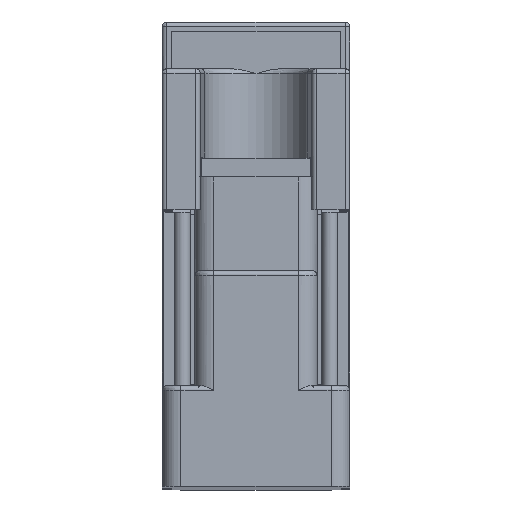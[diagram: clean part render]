
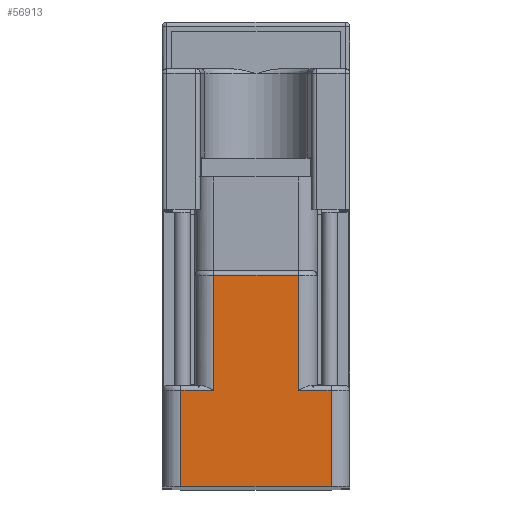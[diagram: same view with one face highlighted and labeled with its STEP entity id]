
A CAD part, top view. The second image highlights one B-rep face of the part: STEP entity #56913.
In plain terms, the highlighted planar face has unit normal (0, 0, 1).
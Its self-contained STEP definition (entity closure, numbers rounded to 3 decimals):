
#1094 = EDGE_CURVE ( 'NONE', #5496, #85985, #74769, .T. ) ;
#1185 = VERTEX_POINT ( 'NONE', #51080 ) ;
#3631 = VECTOR ( 'NONE', #69462, 1000. ) ;
#4089 = ORIENTED_EDGE ( 'NONE', *, *, #55636, .T. ) ;
#4388 = DIRECTION ( 'NONE',  ( 0., -1., 0. ) ) ;
#5163 = FACE_OUTER_BOUND ( 'NONE', #62914, .T. ) ;
#5496 = VERTEX_POINT ( 'NONE', #81099 ) ;
#5973 = EDGE_CURVE ( 'NONE', #47766, #56077, #28273, .T. ) ;
#6872 = CARTESIAN_POINT ( 'NONE',  ( 5.5, 80.626, 0. ) ) ;
#7039 = LINE ( 'NONE', #59703, #61359 ) ;
#12663 = CARTESIAN_POINT ( 'NONE',  ( 18., 0., 0. ) ) ;
#13845 = VERTEX_POINT ( 'NONE', #23467 ) ;
#17349 = CARTESIAN_POINT ( 'NONE',  ( 0., 10.25, 0. ) ) ;
#18995 = CARTESIAN_POINT ( 'NONE',  ( 5.5, 22.5, 0. ) ) ;
#19406 = VECTOR ( 'NONE', #4388, 1000. ) ;
#22482 = VECTOR ( 'NONE', #87958, 1000. ) ;
#23389 = VERTEX_POINT ( 'NONE', #87203 ) ;
#23467 = CARTESIAN_POINT ( 'NONE',  ( 18., 10.25, 0. ) ) ;
#23655 = VERTEX_POINT ( 'NONE', #81216 ) ;
#26893 = PLANE ( 'NONE',  #78021 ) ;
#28273 = LINE ( 'NONE', #83127, #19406 ) ;
#29772 = EDGE_CURVE ( 'NONE', #1185, #23389, #46340, .T. ) ;
#31207 = ORIENTED_EDGE ( 'NONE', *, *, #29772, .T. ) ;
#31580 = DIRECTION ( 'NONE',  ( -1., 0., 0. ) ) ;
#32814 = CARTESIAN_POINT ( 'NONE',  ( 0., 0., 0. ) ) ;
#33031 = VECTOR ( 'NONE', #63205, 1000. ) ;
#35828 = EDGE_CURVE ( 'NONE', #23389, #85985, #7039, .T. ) ;
#36969 = VECTOR ( 'NONE', #70719, 1000. ) ;
#39126 = ORIENTED_EDGE ( 'NONE', *, *, #69533, .T. ) ;
#45771 = LINE ( 'NONE', #12663, #3631 ) ;
#46340 = LINE ( 'NONE', #57639, #55242 ) ;
#47178 = CARTESIAN_POINT ( 'NONE',  ( 2., 10.25, 0. ) ) ;
#47766 = VERTEX_POINT ( 'NONE', #47178 ) ;
#48134 = ORIENTED_EDGE ( 'NONE', *, *, #35828, .T. ) ;
#49105 = DIRECTION ( 'NONE',  ( -1., 0., 0. ) ) ;
#51080 = CARTESIAN_POINT ( 'NONE',  ( 14.5, 10.25, 0. ) ) ;
#51900 = ORIENTED_EDGE ( 'NONE', *, *, #1094, .F. ) ;
#54824 = DIRECTION ( 'NONE',  ( 1., 0., 0. ) ) ;
#55242 = VECTOR ( 'NONE', #74135, 1000. ) ;
#55636 = EDGE_CURVE ( 'NONE', #13845, #1185, #75764, .T. ) ;
#56077 = VERTEX_POINT ( 'NONE', #57142 ) ;
#56913 = ADVANCED_FACE ( 'NONE', ( #5163 ), #26893, .T. ) ;
#57142 = CARTESIAN_POINT ( 'NONE',  ( 2., 0., 0. ) ) ;
#57639 = CARTESIAN_POINT ( 'NONE',  ( 14.5, 0., 0. ) ) ;
#59703 = CARTESIAN_POINT ( 'NONE',  ( 0., 22.5, 0. ) ) ;
#61359 = VECTOR ( 'NONE', #49105, 1000. ) ;
#62914 = EDGE_LOOP ( 'NONE', ( #89233, #4089, #31207, #48134, #51900, #39126, #67605, #68659 ) ) ;
#63205 = DIRECTION ( 'NONE',  ( 1., 0., 0. ) ) ;
#64485 = EDGE_CURVE ( 'NONE', #23655, #13845, #45771, .T. ) ;
#67605 = ORIENTED_EDGE ( 'NONE', *, *, #5973, .T. ) ;
#68659 = ORIENTED_EDGE ( 'NONE', *, *, #75500, .T. ) ;
#69129 = DIRECTION ( 'NONE',  ( 0., 0., 1. ) ) ;
#69462 = DIRECTION ( 'NONE',  ( 0., 1., 0. ) ) ;
#69533 = EDGE_CURVE ( 'NONE', #5496, #47766, #80385, .T. ) ;
#70719 = DIRECTION ( 'NONE',  ( 0., 1., 0. ) ) ;
#74135 = DIRECTION ( 'NONE',  ( 0., 1., 0. ) ) ;
#74769 = LINE ( 'NONE', #6872, #36969 ) ;
#75500 = EDGE_CURVE ( 'NONE', #56077, #23655, #76370, .T. ) ;
#75764 = LINE ( 'NONE', #88549, #22482 ) ;
#76370 = LINE ( 'NONE', #87097, #33031 ) ;
#78021 = AXIS2_PLACEMENT_3D ( 'NONE', #32814, #69129, #54824 ) ;
#78132 = VECTOR ( 'NONE', #31580, 1000. ) ;
#80385 = LINE ( 'NONE', #17349, #78132 ) ;
#81099 = CARTESIAN_POINT ( 'NONE',  ( 5.5, 10.25, 0. ) ) ;
#81216 = CARTESIAN_POINT ( 'NONE',  ( 18., 0., 0. ) ) ;
#83127 = CARTESIAN_POINT ( 'NONE',  ( 2., 0., 0. ) ) ;
#85985 = VERTEX_POINT ( 'NONE', #18995 ) ;
#87097 = CARTESIAN_POINT ( 'NONE',  ( 0., 0., 0. ) ) ;
#87203 = CARTESIAN_POINT ( 'NONE',  ( 14.5, 22.5, 0. ) ) ;
#87958 = DIRECTION ( 'NONE',  ( -1., 0., 0. ) ) ;
#88549 = CARTESIAN_POINT ( 'NONE',  ( 0., 10.25, 0. ) ) ;
#89233 = ORIENTED_EDGE ( 'NONE', *, *, #64485, .T. ) ;
